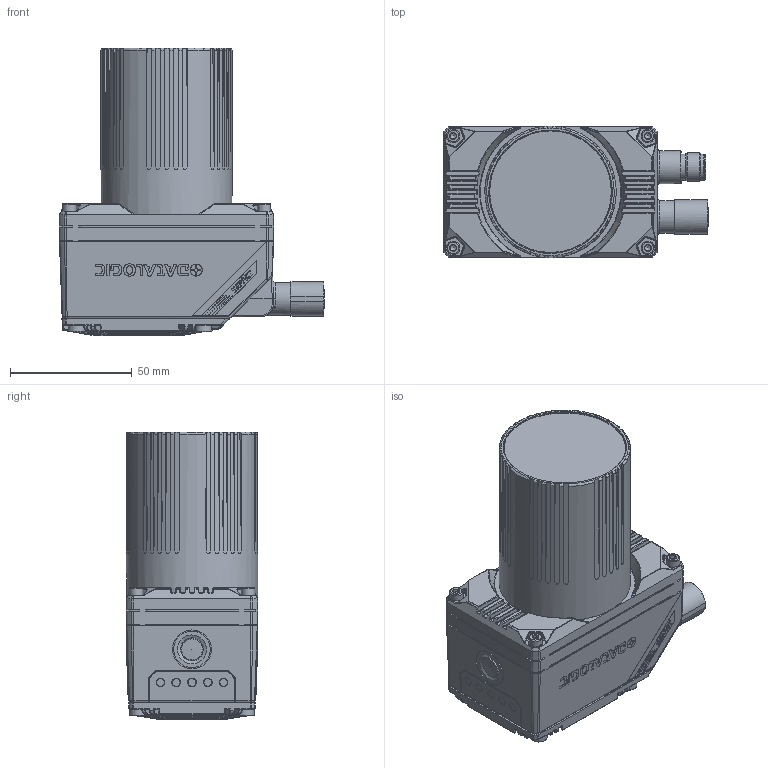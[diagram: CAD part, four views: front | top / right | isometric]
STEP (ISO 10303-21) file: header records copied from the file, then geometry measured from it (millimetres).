
FILE_DESCRIPTION(/* description */ (''),/* implementation_level */ '2;1');
FILE_NAME(/* name */ 'AP035918_00-P2X C-Mount bicchiere lungo 0_.stp',/* time_stamp */ '2022-03-16T16:40:21+01:00',/* author */ (''),/* organization */ (''),/* preprocessor_version */ 'ST-DEVELOPER v16.7',/* originating_system */ 'SIEMENS PLM Software NX 1946',/* authorisation */ '');
FILE_SCHEMA (('AUTOMOTIVE_DESIGN { 1 0 10303 214 3 1 1 1 }'));
Products named in the file (1): FGutB01403CDtyzc
Bounding box: 108.95 x 54.2 x 118.3 mm (x, y, z)
Volume: 275955.2 mm3; surface area: 64119.3 mm2
Topology: 1 solids, 15 shells, 3209 faces, 7613 edges, 4433 vertices
Faces by surface type: plane 1275, cylinder 867, bspline 451, torus 190, cone 172, sphere 170, extrusion 84
Full cylindrical faces by diameter (mm): 0.6 x7, 3.2 x5, 3.3 x9, 3.5 x5, 5.5 x4, 6.2 x4, 7 x3, 9.5 x2, 10.5 x1, 10.7 x1, 10.8 x1, 11.15 x1, 11.85 x1, 12.2 x1, 13.5 x2, 14 x1, 15 x1, 16 x1, 45.4 x1, 46 x1, 46.3 x1, 48 x1, 50 x1, 50.2 x1, 50.4 x1, 54 x1
Entity records: 121075 total; most frequent: CARTESIAN_POINT 44075, ORIENTED_EDGE 14472, DIRECTION 13910, EDGE_CURVE 7236, AXIS2_PLACEMENT_3D 5378, VERTEX_POINT 4383, EDGE_LOOP 3558, ADVANCED_FACE 3206
